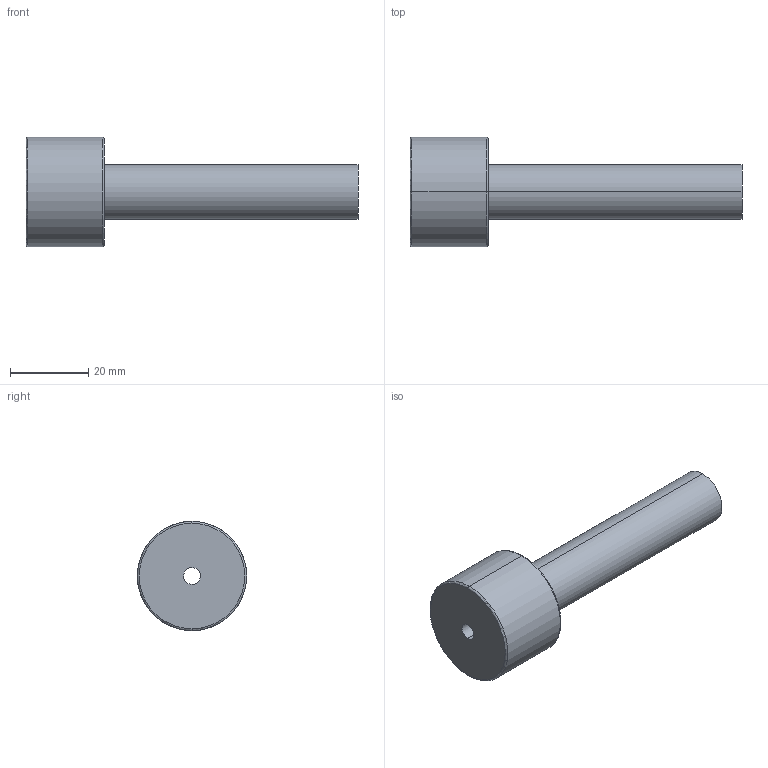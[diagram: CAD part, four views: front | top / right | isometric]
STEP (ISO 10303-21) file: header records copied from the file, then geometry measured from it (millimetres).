
FILE_DESCRIPTION(('CATIA V5 STEP Exchange'),'2;1');
FILE_NAME('C:\Users\Utente\Desktop\IO LAVORO\3D X SITO CF\X SITO\PLASTICA\3D files 367\367F-14X85.stp','2021-03-24T15:53:19+00:00',('none'),('none'),'CATIA Version 5 Release 20 GA (IN-10)','CATIA V5 STEP AP203','none');
FILE_SCHEMA(('CONFIG_CONTROL_DESIGN'));
Length unit declared in the file: millimetre
Products named in the file (1): 367F-14X85
Bounding box: 85 x 28 x 28 mm (x, y, z)
Volume: 19358.4 mm3; surface area: 7480.2 mm2
Topology: 1 solids, 1 shells, 13 faces, 42 edges, 32 vertices
Faces by surface type: torus 4, cylinder 4, plane 3, cone 2
Entity records: 614 total; most frequent: CARTESIAN_POINT 200, ORIENTED_EDGE 84, DIRECTION 60, AXIS2_PLACEMENT_3D 42, EDGE_CURVE 42, VERTEX_POINT 32, CIRCLE 28, EDGE_LOOP 16
